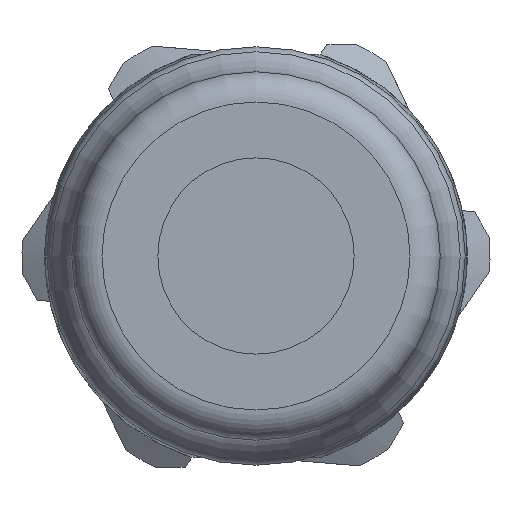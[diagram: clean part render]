
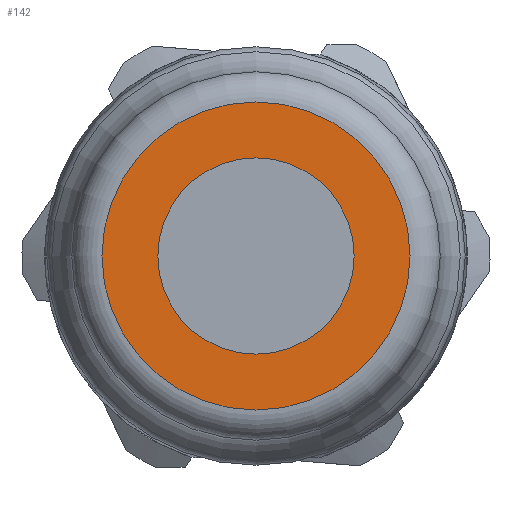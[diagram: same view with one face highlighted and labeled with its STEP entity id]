
A CAD part, left-side view. The second image highlights one B-rep face of the part: STEP entity #142.
In plain terms, the highlighted planar face has unit normal (-1, 0, 0).
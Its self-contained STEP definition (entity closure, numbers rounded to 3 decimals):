
#142 = ADVANCED_FACE( '', ( #313, #314 ), #315, .F. );
#313 = FACE_OUTER_BOUND( '', #503, .T. );
#314 = FACE_BOUND( '', #504, .T. );
#315 = PLANE( '', #505 );
#503 = EDGE_LOOP( '', ( #1083 ) );
#504 = EDGE_LOOP( '', ( #1084 ) );
#505 = AXIS2_PLACEMENT_3D( '', #1085, #1086, #1087 );
#1083 = ORIENTED_EDGE( '', *, *, #1305, .F. );
#1084 = ORIENTED_EDGE( '', *, *, #1306, .T. );
#1085 = CARTESIAN_POINT( '', ( -51.199, 3.25, 0. ) );
#1086 = DIRECTION( '', ( 1., 0., 0. ) );
#1087 = DIRECTION( '', ( 0., 0., -1. ) );
#1305 = EDGE_CURVE( '', #1586, #1586, #1587, .T. );
#1306 = EDGE_CURVE( '', #1588, #1588, #1589, .T. );
#1586 = VERTEX_POINT( '', #2262 );
#1587 = CIRCLE( '', #2263, 5.1 );
#1588 = VERTEX_POINT( '', #2264 );
#1589 = CIRCLE( '', #2265, 3.25 );
#2262 = CARTESIAN_POINT( '', ( -51.199, 0., -5.1 ) );
#2263 = AXIS2_PLACEMENT_3D( '', #2478, #2479, #2480 );
#2264 = CARTESIAN_POINT( '', ( -51.199, 0., -3.25 ) );
#2265 = AXIS2_PLACEMENT_3D( '', #2481, #2482, #2483 );
#2478 = CARTESIAN_POINT( '', ( -51.199, 0., 0. ) );
#2479 = DIRECTION( '', ( 1., 0., 0. ) );
#2480 = DIRECTION( '', ( 0., 0., -1. ) );
#2481 = CARTESIAN_POINT( '', ( -51.199, 0., 0. ) );
#2482 = DIRECTION( '', ( 1., 0., 0. ) );
#2483 = DIRECTION( '', ( 0., 0., -1. ) );
